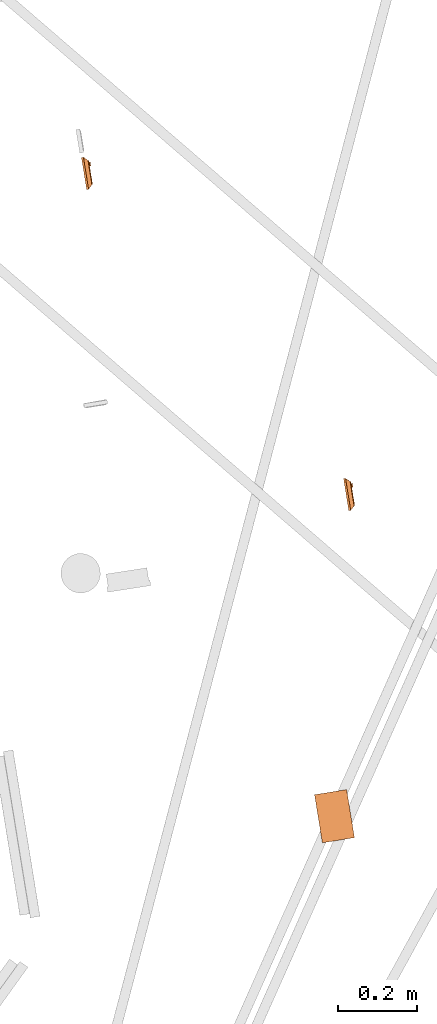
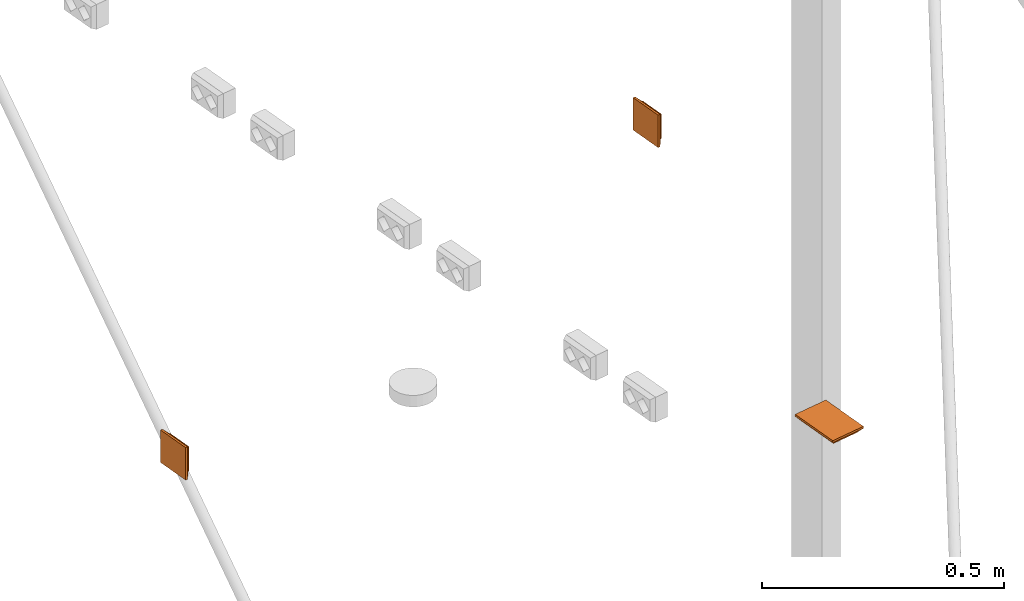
# One storey, part 17 of 33: 3 proxies.
"""IFC2X3 building model written with IfcOpenShell, lengths in millimetres."""

from ifc_helpers import new_model, entity, si_unit, converted_unit, derived_unit, direction, frame, frame_2d, origin, origin_with_axes, origin_2d_with_axis, place, context, subcontext, project, spatial, polyline, rectangle, circle, outline, extrude, faceted_brep, source, transform, mapped, material, type_object, element, save


model = new_model("IFC2X3")

# Units and contexts
plan_context = context("Plan", 3, precision=1e-05, world=origin_with_axes())
model_context = context("Model", 3, precision=0.01, world=origin(), true_north=direction((6.12323399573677e-17, 1.0)))
body_context = subcontext(model_context, "Body", "Model", "MODEL_VIEW")
ifc_project = project(units=[converted_unit("PLANEANGLEUNIT", "DEGREE", entity("IfcPositiveLengthMeasure", 0.0174532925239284), si_unit("PLANEANGLEUNIT", "RADIAN"), dimensions=[0, 0, 0, 0, 0, 0, 0]), si_unit("AREAUNIT", "SQUARE_METRE"), si_unit("LENGTHUNIT", "METRE", prefix="MILLI"), si_unit("MASSUNIT", "GRAM", prefix="KILO"), si_unit("POWERUNIT", "WATT"), si_unit("PRESSUREUNIT", "PASCAL", prefix="KILO"), si_unit("FORCEUNIT", "NEWTON", prefix="KILO"), si_unit("ELECTRICVOLTAGEUNIT", "VOLT"), si_unit("ELECTRICCURRENTUNIT", "AMPERE"), si_unit("THERMODYNAMICTEMPERATUREUNIT", "DEGREE_CELSIUS"), si_unit("TIMEUNIT", "SECOND"), si_unit("VOLUMEUNIT", "CUBIC_METRE"), derived_unit("LINEARVELOCITYUNIT", [(si_unit("LENGTHUNIT", "METRE"), 1), (si_unit("TIMEUNIT", "SECOND"), -1)]), derived_unit("VOLUMETRICFLOWRATEUNIT", [(si_unit("VOLUMEUNIT", "CUBIC_METRE"), 1), (si_unit("TIMEUNIT", "SECOND"), -1)]), derived_unit("THERMALTRANSMITTANCEUNIT", [(si_unit("POWERUNIT", "WATT"), 1), (si_unit("THERMODYNAMICTEMPERATUREUNIT", "KELVIN"), -1), (si_unit("AREAUNIT", "SQUARE_METRE"), -1)]), derived_unit("SOUNDPRESSUREUNIT", [(si_unit("PRESSUREUNIT", "PASCAL"), 1)])], contexts=[model_context, plan_context])

# Site, building, storey
site_placement = place(None, frame((-0.219946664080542, 0.12226179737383, 0.0), z_axis=(0.0, 0.0, 1.0), x_axis=(-0.160236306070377, 0.987078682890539, 0.0)))
site = spatial("IfcSite", under=ifc_project, at=site_placement, Name="Default", CompositionType="ELEMENT")
building_placement = place(site_placement, origin_with_axes())
building = spatial("IfcBuilding", under=site, at=building_placement, CompositionType="ELEMENT")
storey_placement = place(building_placement, frame((0.0, 0.0, 59000.0), z_axis=(0.0, 0.0, 1.0), x_axis=(1.0, 0.0, 0.0)))
storey = spatial("IfcBuildingStorey", under=building, at=storey_placement, Name="Nivå F", CompositionType="ELEMENT", Elevation=59000.0)

# Proxies
ifc_material = material(Name="<Unnamed>")
building_element_proxy_type_1 = type_object("IfcBuildingElementProxyType", Name="Dobbel stikk i tak m_boks 2P+J PH:Earthed reces socket c2", PredefinedType="NOTDEFINED", material=ifc_material)
shared_shape_1 = source(origin(), body_context, "Body", "Brep", [
    faceted_brep([(25.250000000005, -18.3000000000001, -17.8944271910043), (25.250000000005, -18.5954451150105, -17.489897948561), (25.250000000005, -18.7000000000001, -17.0), (25.250000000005, -18.7000000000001, -5.0), (25.250000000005, -19.5000000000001, -5.0), (25.250000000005, -19.5000000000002, -17.0), (25.250000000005, -18.9142135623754, -18.4142135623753), (25.250000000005, -17.5000000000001, -19.0), (25.250000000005, -17.5000000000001, -11.0), (25.250000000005, -18.3000000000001, -11.0), (24.250000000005, -19.5000000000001, -5.0), (24.250000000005, -18.7000000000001, -5.0), (24.250000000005, -18.7000000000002, -17.0), (24.250000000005, -18.5954451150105, -17.489897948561), (24.250000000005, -18.3000000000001, -17.8944271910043), (24.250000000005, -18.3000000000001, -11.0), (24.250000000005, -17.5000000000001, -11.0), (24.250000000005, -17.5000000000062, -19.0), (24.250000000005, -18.9142135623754, -18.4142135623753), (24.250000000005, -19.5000000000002, -17.0)], [[[0, 1, 2, 3, 4, 5, 6, 7, 8, 9]], [[10, 11, 12, 13, 14, 15, 16, 17, 18, 19]], [[11, 10, 4, 3]], [[12, 11, 3, 2]], [[2, 1, 13, 12]], [[0, 14, 13, 1]], [[15, 14, 0, 9]], [[16, 15, 9, 8]], [[17, 16, 8, 7]], [[17, 7, 6, 18]], [[6, 5, 19, 18]], [[10, 19, 5, 4]]]),
    faceted_brep([(24.250000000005, 18.3000000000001, -17.8944271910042), (24.250000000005, 18.5954451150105, -17.4898979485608), (24.250000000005, 18.7000000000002, -17.0), (24.250000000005, 18.7000000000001, -5.0), (24.250000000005, 19.5000000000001, -5.0), (24.250000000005, 19.5000000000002, -17.0), (24.250000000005, 18.9142135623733, -18.4142135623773), (24.250000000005, 17.5000000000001, -19.0), (24.250000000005, 17.5000000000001, -11.0), (24.250000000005, 18.3000000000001, -11.0), (25.250000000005, 19.5000000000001, -5.0), (25.250000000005, 18.7000000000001, -5.0), (25.250000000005, 18.7000000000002, -17.0), (25.250000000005, 18.5954451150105, -17.4898979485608), (25.250000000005, 18.3000000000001, -17.8944271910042), (25.250000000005, 18.3000000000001, -11.0), (25.250000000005, 17.5000000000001, -11.0), (25.250000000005, 17.5000000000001, -19.0), (25.250000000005, 18.9142135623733, -18.4142135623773), (25.250000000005, 19.5000000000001, -17.0)], [[[0, 1, 2, 3, 4, 5, 6, 7, 8, 9]], [[10, 11, 12, 13, 14, 15, 16, 17, 18, 19]], [[9, 8, 16, 15]], [[0, 9, 15, 14]], [[14, 13, 1, 0]], [[12, 2, 1, 13]], [[3, 2, 12, 11]], [[4, 3, 11, 10]], [[5, 4, 10, 19]], [[5, 19, 18, 6]], [[18, 17, 7, 6]], [[8, 7, 17, 16]]]),
    faceted_brep([(-25.249999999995, 18.9142135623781, -18.4142135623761), (-25.249999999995, 19.5000000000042, -17.0), (-25.249999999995, 19.5000000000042, -5.0), (-25.249999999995, 18.7000000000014, -5.0), (-25.249999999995, 18.7000000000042, -17.0), (-25.249999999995, 18.5954451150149, -17.4898979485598), (-25.249999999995, 18.3000000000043, -17.8944271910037), (-25.249999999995, 18.3000000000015, -11.0), (-25.249999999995, 17.5000000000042, -11.0), (-25.249999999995, 17.5000000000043, -19.0), (-26.249999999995, 19.5000000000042, -5.0), (-26.249999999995, 19.5000000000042, -17.0), (-26.249999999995, 18.9142135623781, -18.4142135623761), (-26.249999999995, 17.5000000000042, -19.0), (-26.249999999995, 17.5000000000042, -11.0), (-26.249999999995, 18.3000000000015, -11.0), (-26.249999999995, 18.3000000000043, -17.8944271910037), (-26.249999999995, 18.5954451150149, -17.4898979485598), (-26.249999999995, 18.7000000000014, -17.0), (-26.249999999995, 18.7000000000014, -5.0)], [[[0, 1, 2, 3, 4, 5, 6, 7, 8, 9]], [[10, 11, 12, 13, 14, 15, 16, 17, 18, 19]], [[11, 10, 2, 1]], [[11, 1, 0, 12]], [[0, 9, 13, 12]], [[14, 13, 9, 8]], [[16, 15, 7, 6]], [[6, 5, 17, 16]], [[4, 18, 17, 5]], [[19, 18, 4, 3]], [[10, 19, 3, 2]], [[15, 14, 8, 7]]]),
    faceted_brep([(-26.249999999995, -17.4999999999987, -5.0), (-26.249999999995, -17.4999999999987, -19.0), (-26.249999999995, -18.9142135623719, -18.4142135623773), (-26.249999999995, -19.4999999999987, -17.0), (-26.249999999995, -19.4999999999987, -11.0), (-26.249999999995, -18.6999999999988, -11.0), (-26.249999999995, -18.6999999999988, -17.0), (-26.249999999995, -18.5954451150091, -17.4898979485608), (-26.249999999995, -18.2999999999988, -17.8944271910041), (-26.249999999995, -18.2999999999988, -5.0), (-25.249999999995, -17.4999999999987, -19.0), (-25.249999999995, -17.4999999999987, -5.0), (-25.249999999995, -18.2999999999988, -5.0), (-25.249999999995, -18.2999999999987, -17.8944271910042), (-25.249999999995, -18.5954451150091, -17.4898979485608), (-25.249999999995, -18.6999999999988, -17.0), (-25.249999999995, -18.6999999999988, -11.0), (-25.249999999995, -19.4999999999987, -11.0), (-25.249999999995, -19.4999999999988, -17.0), (-25.249999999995, -18.9142135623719, -18.4142135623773)], [[[0, 1, 2, 3, 4, 5, 6, 7, 8, 9]], [[10, 11, 12, 13, 14, 15, 16, 17, 18, 19]], [[1, 0, 11, 10]], [[10, 19, 2, 1]], [[2, 19, 18, 3]], [[4, 3, 18, 17]], [[5, 4, 17, 16]], [[6, 5, 16, 15]], [[14, 7, 6, 15]], [[13, 8, 7, 14]], [[9, 8, 13, 12]], [[0, 9, 12, 11]]]),
    faceted_brep([(15.7500000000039, -2.5, -5.0), (16.3750000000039, -1.875, -5.0), (17.0, -1.25, -5.0), (17.6250000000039, -0.625000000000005, -5.0), (18.2500000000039, 0.0, -5.0), (17.7008289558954, 0.54917104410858, -5.0), (17.0, 1.25, -5.0), (16.375000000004, 1.875, -5.0), (15.750000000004, 2.5, -5.0), (15.125000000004, 1.87500000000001, -5.0), (14.500000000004, 1.25000000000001, -5.0), (13.8750000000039, 0.625000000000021, -5.0), (13.2500000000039, 0.0, -5.0), (13.7991710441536, -0.549171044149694, -5.0), (14.5000000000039, -1.25, -5.0), (15.1250000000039, -1.875, -5.0), (17.7008289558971, -0.549171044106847, -5.20000000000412), (17.1516579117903, -1.09834208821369, -5.20000000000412), (16.4508289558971, -1.79917104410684, -5.20000000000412), (15.7500000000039, -2.5, -5.20000000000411), (15.1250000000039, -1.875, -5.20000000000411), (14.5000000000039, -1.25, -5.20000000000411), (13.8750000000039, -0.625, -5.20000000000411), (13.2500000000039, 0.0, -5.2000000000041), (13.7991710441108, 0.54917104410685, -5.20000000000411), (14.3483420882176, 1.09834208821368, -5.20000000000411), (15.0491710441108, 1.79917104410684, -5.20000000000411), (15.750000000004, 2.5, -5.20000000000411), (16.375000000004, 1.875, -5.20000000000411), (17.0, 1.25, -5.20000000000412), (17.6250000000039, 0.624999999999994, -5.20000000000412), (18.2500000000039, 0.0, -5.20000000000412)], [[[0, 1, 2, 3, 4, 5, 6, 7, 8, 9, 10, 11, 12, 13, 14, 15]], [[16, 17, 18, 19, 20, 21, 22, 23, 24, 25, 26, 27, 28, 29, 30, 31]], [[29, 28, 27, 8, 7, 6, 5, 4, 31, 30]], [[8, 27, 26, 25, 24, 23, 12, 11, 10, 9]], [[21, 20, 19, 0, 15, 14, 13, 12, 23, 22]], [[0, 19, 18, 17, 16, 31, 4, 3, 2, 1]]]),
    faceted_brep([(35.0491710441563, -1.79917104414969, -5.20000000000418), (34.348342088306, -1.09834208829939, -5.20000000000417), (33.7991710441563, -0.549171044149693, -5.20000000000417), (33.2500000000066, 0.0, -5.20000000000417), (33.8750000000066, 0.625000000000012, -5.20000000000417), (34.5000000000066, 1.25000000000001, -5.20000000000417), (35.1250000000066, 1.875, -5.20000000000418), (35.7500000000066, 2.5, -5.20000000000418), (36.450828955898, 1.79917104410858, -5.20000000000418), (37.1516579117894, 1.09834208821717, -5.20000000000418), (37.700828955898, 0.54917104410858, -5.20000000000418), (38.2500000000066, 0.0, -5.20000000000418), (37.6250000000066, -0.625000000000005, -5.20000000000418), (37.0, -1.25, -5.20000000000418), (36.3750000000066, -1.875, -5.20000000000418), (35.7500000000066, -2.5, -5.20000000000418), (35.1250000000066, 1.87500000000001, -5.0), (34.5000000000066, 1.25000000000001, -5.0), (33.7991710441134, 0.549171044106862, -5.0), (33.2500000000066, 0.0, -5.0), (33.8750000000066, -0.625, -5.0), (34.5000000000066, -1.25, -5.0), (35.1250000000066, -1.875, -5.0), (35.7500000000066, -2.5, -5.0), (36.3750000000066, -1.875, -5.0), (37.0, -1.25, -5.0), (37.7008289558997, -0.549171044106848, -5.0), (38.2500000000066, 0.0, -5.0), (37.6250000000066, 0.624999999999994, -5.0), (37.0, 1.25, -5.0), (36.3750000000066, 1.875, -5.0), (35.7500000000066, 2.5, -5.0)], [[[0, 1, 2, 3, 4, 5, 6, 7, 8, 9, 10, 11, 12, 13, 14, 15]], [[16, 17, 18, 19, 20, 21, 22, 23, 24, 25, 26, 27, 28, 29, 30, 31]], [[30, 29, 28, 27, 11, 10, 9, 8, 7, 31]], [[31, 7, 6, 5, 4, 3, 19, 18, 17, 16]], [[22, 21, 20, 19, 3, 2, 1, 0, 15, 23]], [[23, 15, 14, 13, 12, 11, 27, 26, 25, 24]]]),
    faceted_brep([(-36.3749999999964, 1.87500000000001, -5.0), (-37.0, 1.25000000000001, -5.0), (-37.6249999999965, 0.625000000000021, -5.0), (-38.2499999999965, 0.0, -5.0), (-37.7008289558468, -0.549171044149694, -5.0), (-37.0, -1.25, -5.0), (-36.3749999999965, -1.875, -5.0), (-35.7499999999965, -2.5, -5.0), (-35.1249999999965, -1.875, -5.0), (-34.4999999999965, -1.25, -5.0), (-33.8749999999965, -0.625000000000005, -5.0), (-33.2499999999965, 0.0, -5.0), (-33.799171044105, 0.54917104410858, -5.0), (-34.4999999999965, 1.25, -5.0), (-35.1249999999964, 1.875, -5.0), (-35.7499999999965, 2.5, -5.0), (-36.3749999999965, -1.875, -5.20000000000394), (-37.0, -1.25, -5.20000000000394), (-37.6249999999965, -0.625, -5.20000000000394), (-38.2499999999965, 0.0, -5.20000000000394), (-37.7008289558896, 0.54917104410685, -5.20000000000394), (-37.1516579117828, 1.09834208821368, -5.20000000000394), (-36.4508289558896, 1.79917104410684, -5.20000000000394), (-35.7499999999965, 2.5, -5.20000000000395), (-35.1249999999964, 1.875, -5.20000000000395), (-34.4999999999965, 1.25, -5.20000000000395), (-33.8749999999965, 0.624999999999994, -5.20000000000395), (-33.2499999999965, 0.0, -5.20000000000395), (-33.7991710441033, -0.549171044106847, -5.20000000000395), (-34.3483420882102, -1.09834208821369, -5.20000000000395), (-35.0491710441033, -1.79917104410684, -5.20000000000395), (-35.7499999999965, -2.5, -5.20000000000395)], [[[0, 1, 2, 3, 4, 5, 6, 7, 8, 9, 10, 11, 12, 13, 14, 15]], [[16, 17, 18, 19, 20, 21, 22, 23, 24, 25, 26, 27, 28, 29, 30, 31]], [[25, 24, 23, 15, 14, 13, 12, 11, 27, 26]], [[15, 23, 22, 21, 20, 19, 3, 2, 1, 0]], [[17, 16, 31, 7, 6, 5, 4, 3, 19, 18]], [[7, 31, 30, 29, 28, 27, 11, 10, 9, 8]]]),
    faceted_brep([(-16.4508289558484, -1.79917104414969, -5.20000000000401), (-17.1516579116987, -1.09834208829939, -5.20000000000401), (-17.7008289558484, -0.549171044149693, -5.200000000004), (-18.2499999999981, 0.0, -5.200000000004), (-17.6249999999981, 0.625000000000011, -5.200000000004), (-17.0, 1.25000000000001, -5.20000000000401), (-16.3749999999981, 1.875, -5.20000000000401), (-15.7499999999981, 2.5, -5.20000000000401), (-15.0491710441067, 1.79917104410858, -5.20000000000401), (-14.3483420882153, 1.09834208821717, -5.20000000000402), (-13.7991710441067, 0.549171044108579, -5.20000000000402), (-13.2499999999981, 0.0, -5.20000000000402), (-13.8749999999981, -0.625000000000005, -5.20000000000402), (-14.4999999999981, -1.25, -5.20000000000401), (-15.1249999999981, -1.875, -5.20000000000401), (-15.7499999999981, -2.5, -5.20000000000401), (-16.3749999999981, 1.87500000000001, -5.0), (-17.0, 1.25000000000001, -5.0), (-17.7008289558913, 0.549171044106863, -5.0), (-18.2499999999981, 0.0, -5.0), (-17.6249999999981, -0.625, -5.0), (-17.0, -1.25, -5.0), (-16.3749999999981, -1.875, -5.0), (-15.7499999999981, -2.5, -5.0), (-15.1249999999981, -1.875, -5.0), (-14.4999999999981, -1.25, -5.0), (-13.799171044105, -0.549171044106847, -5.0), (-13.2499999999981, 0.0, -5.0), (-13.8749999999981, 0.624999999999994, -5.0), (-14.4999999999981, 1.25, -5.0), (-15.1249999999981, 1.875, -5.0), (-15.7499999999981, 2.5, -5.0)], [[[0, 1, 2, 3, 4, 5, 6, 7, 8, 9, 10, 11, 12, 13, 14, 15]], [[16, 17, 18, 19, 20, 21, 22, 23, 24, 25, 26, 27, 28, 29, 30, 31]], [[30, 29, 28, 27, 11, 10, 9, 8, 7, 31]], [[31, 7, 6, 5, 4, 3, 19, 18, 17, 16]], [[22, 21, 20, 19, 3, 2, 1, 0, 15, 23]], [[23, 15, 14, 13, 12, 11, 27, 26, 25, 24]]]),
    faceted_brep([(-51.5000000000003, -31.0, -17.0), (-35.7500000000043, -17.3205080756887, -17.0), (-30.9263809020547, -19.3185165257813, -17.0), (-39.8921356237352, -14.1421356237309, -17.0), (-25.750000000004, -20.0, -17.0), (-20.5736190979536, -19.3185165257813, -17.0), (20.5736190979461, -19.3185165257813, -17.0), (-43.070508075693, -10.0, -17.0), (-45.0685165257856, -5.1763809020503, -17.0), (-45.7500000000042, 0.0, -17.0), (51.5000000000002, -31.0, -17.0), (-51.5000000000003, 31.0, -17.0), (-45.0685165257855, 5.17638090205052, -17.0), (-43.0705080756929, 10.0, -17.0), (-39.892135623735, 14.142135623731, -17.0), (-35.7500000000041, 17.3205080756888, -17.0), (-30.9263809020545, 19.3185165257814, -17.0), (-25.7500000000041, 20.0, -17.0), (-20.5736190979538, 19.3185165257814, -17.0), (20.5736190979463, 19.3185165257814, -17.0), (51.5000000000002, 31.0, -17.0), (25.7499999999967, 20.0, -17.0), (30.926380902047, 19.3185165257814, -17.0), (35.7499999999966, 17.3205080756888, -17.0), (39.8921356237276, 14.142135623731, -17.0), (43.0705080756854, 10.0, -17.0), (45.068516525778, 5.1763809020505, -17.0), (45.7499999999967, 0.0, -17.0), (25.7499999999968, -20.0, -17.0), (30.9263809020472, -19.3185165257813, -17.0), (35.7499999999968, -17.3205080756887, -17.0), (39.8921356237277, -14.1421356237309, -17.0), (43.0705080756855, -10.0, -17.0), (45.0685165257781, -5.17638090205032, -17.0), (15.7499999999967, 17.3205080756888, -17.0), (-15.7500000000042, 17.3205080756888, -17.0), (11.6078643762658, 14.142135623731, -17.0), (-11.6078643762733, 14.142135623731, -17.0), (8.42949192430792, 10.0, -17.0), (-8.42949192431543, 10.0, -17.0), (6.4314834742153, 5.17638090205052, -17.0), (-6.43148347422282, 5.1763809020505, -17.0), (-5.75000000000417, 0.0, -17.0), (5.74999999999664, 0.0, -17.0), (6.43148347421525, -5.1763809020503, -17.0), (-6.43148347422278, -5.17638090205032, -17.0), (-8.42949192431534, -10.0, -17.0), (8.42949192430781, -10.0, -17.0), (-11.6078643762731, -14.1421356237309, -17.0), (11.6078643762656, -14.1421356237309, -17.0), (-15.7500000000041, -17.3205080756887, -17.0), (15.7499999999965, -17.3205080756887, -17.0), (61.5000000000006, -41.0, -5.0), (35.7499999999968, -17.3205080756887, -5.0), (30.9263809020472, -19.3185165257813, -5.0), (39.8921356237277, -14.1421356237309, -5.0), (25.7499999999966, -20.0, -5.0), (20.5736190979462, -19.3185165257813, -5.0), (-20.5736190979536, -19.3185165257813, -5.0), (43.0705080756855, -10.0, -5.0), (45.0685165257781, -5.17638090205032, -5.0), (45.7499999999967, 0.0, -5.0), (-61.5000000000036, -41.0, -5.0), (61.5000000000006, 41.0, -5.0), (45.068516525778, 5.1763809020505, -5.0), (43.0705080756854, 10.0, -5.0), (39.8921356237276, 14.142135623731, -5.0), (35.7499999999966, 17.3205080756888, -5.0), (30.9263809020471, 19.3185165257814, -5.0), (25.7499999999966, 20.0, -5.0), (20.5736190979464, 19.3185165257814, -5.0), (-20.5736190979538, 19.3185165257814, -5.0), (-61.5000000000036, 41.0, -5.0), (-25.7500000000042, 20.0, -5.0), (-30.9263809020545, 19.3185165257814, -5.0), (-35.750000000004, 17.3205080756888, -5.0), (-39.892135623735, 14.142135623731, -5.0), (-43.0705080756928, 10.0, -5.0), (-45.0685165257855, 5.17638090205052, -5.0), (-45.7500000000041, 0.0, -5.0), (-25.7500000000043, -20.0, -5.0), (-30.9263809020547, -19.3185165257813, -5.0), (-35.7500000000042, -17.3205080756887, -5.0), (-39.8921356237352, -14.1421356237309, -5.0), (-43.070508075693, -10.0, -5.0), (-45.0685165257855, -5.1763809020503, -5.0), (-15.7500000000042, 17.3205080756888, -5.0), (15.7499999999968, 17.3205080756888, -5.0), (-11.6078643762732, 14.142135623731, -5.0), (11.6078643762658, 14.142135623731, -5.0), (-8.4294919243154, 10.0, -5.0), (8.42949192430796, 10.0, -5.0), (-6.43148347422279, 5.1763809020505, -5.0), (6.43148347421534, 5.17638090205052, -5.0), (5.74999999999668, 0.0, -5.0), (-5.75000000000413, 0.0, -5.0), (-6.43148347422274, -5.17638090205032, -5.0), (6.43148347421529, -5.1763809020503, -5.0), (8.42949192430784, -10.0, -5.0), (-8.4294919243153, -10.0, -5.0), (11.6078643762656, -14.1421356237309, -5.0), (-11.6078643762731, -14.1421356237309, -5.0), (15.7499999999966, -17.3205080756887, -5.0), (-15.750000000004, -17.3205080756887, -5.0)], [[[0, 1, 2]], [[1, 0, 3]], [[0, 2, 4]], [[4, 5, 0]], [[0, 5, 6]], [[7, 3, 0]], [[8, 7, 0]], [[0, 9, 8]], [[6, 10, 0]], [[9, 0, 11]], [[12, 9, 11]], [[13, 12, 11]], [[11, 14, 13]], [[14, 11, 15]], [[15, 11, 16]], [[17, 16, 11]], [[18, 17, 11]], [[11, 19, 18]], [[19, 11, 20]], [[21, 19, 20]], [[20, 22, 21]], [[22, 20, 23]], [[24, 23, 20]], [[24, 20, 25]], [[26, 25, 20]], [[27, 26, 20]], [[27, 20, 10]], [[6, 28, 10]], [[29, 10, 28]], [[10, 29, 30]], [[10, 30, 31]], [[31, 32, 10]], [[32, 33, 10]], [[10, 33, 27]], [[19, 34, 18]], [[35, 18, 34]], [[36, 35, 34]], [[37, 35, 36]], [[36, 38, 37]], [[39, 37, 38]], [[38, 40, 39]], [[41, 39, 40]], [[40, 42, 41]], [[42, 40, 43]], [[43, 44, 42]], [[45, 42, 44]], [[46, 45, 44]], [[44, 47, 46]], [[48, 46, 47]], [[47, 49, 48]], [[50, 48, 49]], [[51, 50, 49]], [[5, 50, 51]], [[51, 6, 5]], [[52, 53, 54]], [[53, 52, 55]], [[52, 54, 56]], [[56, 57, 52]], [[52, 57, 58]], [[59, 55, 52]], [[60, 59, 52]], [[52, 61, 60]], [[58, 62, 52]], [[61, 52, 63]], [[64, 61, 63]], [[65, 64, 63]], [[63, 66, 65]], [[66, 63, 67]], [[67, 63, 68]], [[69, 68, 63]], [[70, 69, 63]], [[70, 63, 71]], [[63, 72, 71]], [[73, 71, 72]], [[72, 74, 73]], [[74, 72, 75]], [[76, 75, 72]], [[76, 72, 77]], [[78, 77, 72]], [[79, 78, 72]], [[79, 72, 62]], [[58, 80, 62]], [[81, 62, 80]], [[62, 81, 82]], [[62, 82, 83]], [[83, 84, 62]], [[84, 85, 62]], [[62, 85, 79]], [[86, 70, 71]], [[86, 87, 70]], [[88, 87, 86]], [[89, 87, 88]], [[88, 90, 89]], [[91, 89, 90]], [[90, 92, 91]], [[93, 91, 92]], [[92, 94, 93]], [[94, 92, 95]], [[95, 96, 94]], [[97, 94, 96]], [[98, 97, 96]], [[96, 99, 98]], [[100, 98, 99]], [[99, 101, 100]], [[102, 100, 101]], [[103, 102, 101]], [[103, 57, 102]], [[58, 57, 103]], [[20, 63, 52, 10]], [[11, 72, 63, 20]], [[0, 62, 72, 11]], [[10, 52, 62, 0]], [[73, 17, 18, 71]], [[71, 18, 35, 86]], [[90, 88, 37, 39]], [[37, 88, 86, 35]], [[92, 90, 39, 41]], [[92, 41, 42, 95]], [[95, 42, 45, 96]], [[96, 45, 46, 99]], [[103, 101, 48, 50]], [[48, 101, 99, 46]], [[58, 103, 50, 5]], [[58, 5, 4, 80]], [[80, 4, 2, 81]], [[81, 2, 1, 82]], [[84, 83, 3, 7]], [[3, 83, 82, 1]], [[85, 84, 7, 8]], [[85, 8, 9, 79]], [[79, 9, 12, 78]], [[78, 12, 13, 77]], [[75, 76, 14, 15]], [[14, 76, 77, 13]], [[74, 75, 15, 16]], [[74, 16, 17, 73]], [[69, 21, 22, 68]], [[68, 22, 23, 67]], [[65, 66, 24, 25]], [[23, 24, 66, 67]], [[64, 65, 25, 26]], [[27, 61, 64, 26]], [[60, 33, 32, 59]], [[59, 32, 31, 55]], [[54, 53, 30, 29]], [[31, 30, 53, 55]], [[56, 54, 29, 28]], [[60, 61, 27, 33]], [[56, 28, 6, 57]], [[57, 6, 51, 102]], [[98, 100, 49, 47]], [[51, 49, 100, 102]], [[97, 98, 47, 44]], [[43, 94, 97, 44]], [[93, 40, 38, 91]], [[91, 38, 36, 89]], [[70, 87, 34, 19]], [[36, 34, 87, 89]], [[69, 70, 19, 21]], [[93, 94, 43, 40]]]),
    faceted_brep([(61.5000000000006, -41.0, 0.0), (61.5000000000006, 41.0, 0.0), (-61.5000000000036, 41.0, 0.0), (-61.5000000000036, -41.0, 0.0), (61.5000000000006, -41.0, -5.0), (-61.5000000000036, -41.0, -5.0), (-61.5000000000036, 41.0, -5.0), (61.5000000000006, 41.0, -5.0)], [[[0, 1, 2, 3]], [[4, 5, 6, 7]], [[1, 0, 4, 7]], [[2, 1, 7, 6]], [[3, 2, 6, 5]], [[0, 3, 5, 4]]]),
])
proxy_placement = place(storey_placement, frame((773112.388455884, -502963.994469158, 2450.0), z_axis=(0.0, 0.0, 1.0), x_axis=(1.0, 0.0, 0.0)))
element("IfcBuildingElementProxy", 1, at=proxy_placement, inside=storey, type_object=building_element_proxy_type_1, material=ifc_material, Name="Dobbel stikk i tak m_boks 2P+J PH:Earthed reces socket c2", ObjectType="Dobbel stikk i tak m_boks 2P+J PH:Earthed reces socket c2", context=body_context, shape_type="MappedRepresentation", body=[
    mapped(shared_shape_1, transform((0.0, 0.0, 0.0), scale=1.0)),
])
building_element_proxy_type_2 = type_object("IfcBuildingElementProxyType", Name="Tempraturføler:FLOOR-HEATER-CONTROLLER-1", PredefinedType="NOTDEFINED", material=ifc_material)
shared_shape_2 = source(origin(), body_context, "Body", "SweptSolid", [
    extrude(rectangle(XDim=0.200000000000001, YDim=9.99999999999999, at=frame_2d((2.22044604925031e-15, -2.25514051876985e-15), x_axis=(0.0, 1.0))), frame((21.0, -19.9768091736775, -9.77872704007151), z_axis=(0.0, 0.148340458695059, 0.988936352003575), x_axis=(-1.0, 0.0, 0.0)), (0.0, 0.0, 1.0), 20.0),
    extrude(rectangle(XDim=0.199999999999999, YDim=2.9750493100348, at=frame_2d((2.1094237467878e-15, 1.59594559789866e-16), x_axis=(0.0, 1.0))), frame((16.0, -18.493404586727, -9.88936352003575), z_axis=(1.0, 0.0, 0.0), x_axis=(0.0, 0.997230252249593, -0.0743762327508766)), (0.0, 0.0, 1.0), 9.99999999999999),
    extrude(outline(polyline([(-6.74042431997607, -0.988936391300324), (13.2595756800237, -0.988936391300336), (-6.5191513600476, 1.97787278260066), (-6.74042431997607, -0.988936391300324)])), frame((25.9, -17.9989363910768, -3.25957568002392), z_axis=(1.0, 0.0, 0.0), x_axis=(0.0, 0.0, 1.0)), (0.0, 0.0, 1.0), 0.200000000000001),
    extrude(outline(polyline([(-6.74042431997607, -0.988936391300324), (13.2595756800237, -0.988936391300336), (-6.5191513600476, 1.97787278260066), (-6.74042431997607, -0.988936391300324)])), frame((15.9, -17.9989363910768, -3.25957568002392), z_axis=(1.0, 0.0, 0.0), x_axis=(0.0, 0.0, 1.0)), (0.0, 0.0, 1.0), 0.199999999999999),
    extrude(rectangle(XDim=9.99999999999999, YDim=0.199999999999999, at=frame_2d((2.22044604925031e-15, 1.06165076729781e-15), x_axis=(1.0, 0.0))), frame((21.0, -17.0099999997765, -10.0), z_axis=(0.0, 0.0, 1.0), x_axis=(-1.0, 0.0, 0.0)), (0.0, 0.0, 1.0), 20.0),
    extrude(outline(polyline([(-29.4448637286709, -29.3938769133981), (-12.1243556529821, -29.3938769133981), (23.6713610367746, 21.2289111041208), (17.8978583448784, 37.5588427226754), (-29.4448637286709, -29.3938769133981)])), frame((36.0707106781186, -10.0707106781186, 0.0), z_axis=(-0.707106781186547, 0.707106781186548, 0.0), x_axis=(-0.577350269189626, -0.577350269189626, 0.577350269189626)), (0.0, 0.0, 1.0), 0.199999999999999),
    extrude(outline(polyline([(-41.0, -7.07106781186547), (41.0, -7.07106781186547), (31.0, 7.07106781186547), (-31.0, 7.07106781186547), (-41.0, -7.07106781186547)])), frame((-36.0707106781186, -10.0707106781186, 0.0), z_axis=(0.707106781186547, 0.707106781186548, 0.0), x_axis=(0.0, 0.0, 1.0)), (0.0, 0.0, 1.0), 0.200000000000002),
    extrude(outline(polyline([(12.1243556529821, -29.3938769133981), (29.4448637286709, -29.3938769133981), (-17.8978583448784, 37.5588427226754), (-23.6713610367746, 21.2289111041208), (12.1243556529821, -29.3938769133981)])), frame((0.0, -10.0707106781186, -36.0707106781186), z_axis=(0.0, 0.707106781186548, 0.707106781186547), x_axis=(0.577350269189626, 0.577350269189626, -0.577350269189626)), (0.0, 0.0, 1.0), 0.199999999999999),
    extrude(outline(polyline([(-31.0, -7.07106781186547), (31.0, -7.07106781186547), (41.0, 7.07106781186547), (-41.0, 7.07106781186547), (-31.0, -7.07106781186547)])), frame((0.0, -10.0707106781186, 36.0707106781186), z_axis=(0.0, 0.707106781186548, -0.707106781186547), x_axis=(-1.0, 0.0, 0.0)), (0.0, 0.0, 1.0), 0.199999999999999),
    extrude(rectangle(XDim=61.9999999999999, YDim=0.200000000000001, at=origin_2d_with_axis()), frame((0.0, -15.0, -31.0), z_axis=(0.0, 0.0, 1.0), x_axis=(-1.0, 0.0, 0.0)), (0.0, 0.0, 1.0), 61.9999999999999),
    extrude(circle(Radius=0.999999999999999, at=frame_2d((0.0, -1.05748743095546e-15), x_axis=(1.0, 0.0))), frame((-9.49999999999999, -17.1199999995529, 7.0), z_axis=(0.0, 1.0, 0.0), x_axis=(0.0, 0.0, 1.0)), (0.0, 0.0, 1.0), 0.199999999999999),
    extrude(circle(Radius=0.5, at=origin_2d_with_axis()), frame((-11.5, -17.1199999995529, 5.0), z_axis=(0.0, 1.0, 0.0), x_axis=(0.0, 0.0, 1.0)), (0.0, 0.0, 1.0), 0.199999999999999),
    extrude(circle(Radius=9.99999999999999, at=frame_2d((0.0, -1.48048240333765e-14), x_axis=(1.0, 0.0))), frame((-19.0, -17.1099999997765, 0.0), z_axis=(0.0, 1.0, 0.0), x_axis=(0.0, 0.0, 1.0)), (0.0, 0.0, 1.0), 0.199999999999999),
    extrude(rectangle(XDim=2.0, YDim=61.9999999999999, at=origin_2d_with_axis()), frame((0.0, -16.0, -31.0), z_axis=(0.0, 0.0, 1.0), x_axis=(0.0, -1.0, 0.0)), (0.0, 0.0, 1.0), 61.9999999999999),
    extrude(rectangle(XDim=4.99999999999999, YDim=81.9999999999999, at=origin_2d_with_axis()), frame((0.0, -2.5, -41.0), z_axis=(0.0, 0.0, 1.0), x_axis=(0.0, -1.0, 0.0)), (0.0, 0.0, 1.0), 81.9999999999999),
])
for number, where, z_axis, x_axis, name in (
    (2, (774814.679692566, -502599.977166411, 1600.0), (0.0, 0.0, 1.0), (0.999999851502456, -0.000544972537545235, 0.0), "Tempraturføler:FLOOR-HEATER-CONTROLLER-1"),
    (3, (773908.621863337, -503123.089898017, 2700.0), (0.0, 0.0, 1.0), (0.999999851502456, -0.000544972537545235, 0.0), "Tempraturføler:FLOOR-HEATER-CONTROLLER-1"),
):
    element("IfcBuildingElementProxy", number, at=place(storey_placement, frame(where, z_axis=z_axis, x_axis=x_axis)), inside=storey, type_object=building_element_proxy_type_2, material=ifc_material, Name=name, ObjectType="Tempraturføler:FLOOR-HEATER-CONTROLLER-1", context=body_context, shape_type="MappedRepresentation", body=[
        mapped(shared_shape_2, transform((0.0, 0.0, 0.0), scale=1.0)),
    ])

save(model, "model.ifc")
